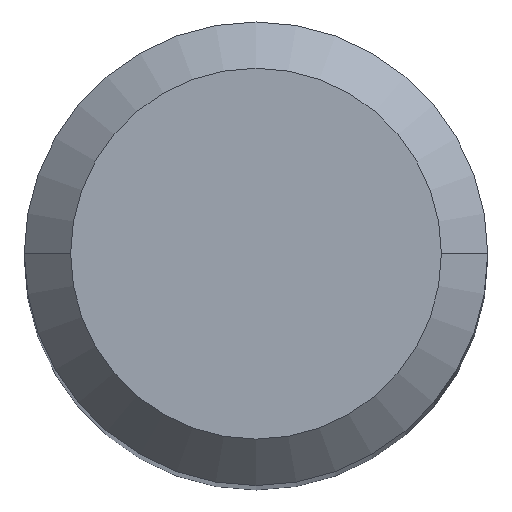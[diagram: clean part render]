
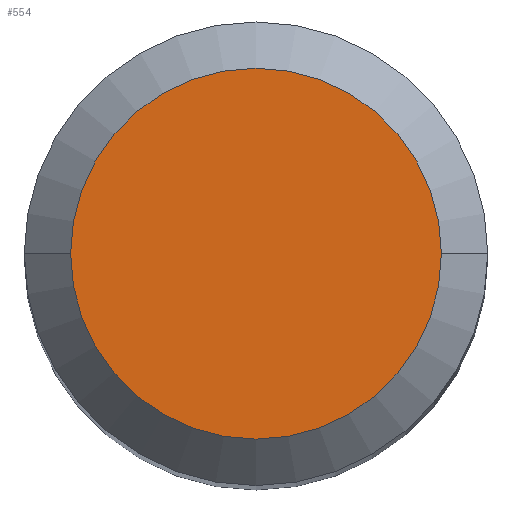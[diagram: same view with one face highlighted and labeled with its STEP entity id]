
A CAD part, top view. The second image highlights one B-rep face of the part: STEP entity #554.
In plain terms, the highlighted planar face has unit normal (0, 0, 1).
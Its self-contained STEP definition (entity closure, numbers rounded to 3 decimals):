
#9 = DIRECTION ( 'NONE',  ( 1., 0., 0. ) ) ;
#29 = DIRECTION ( 'NONE',  ( -1., 0., 0. ) ) ;
#83 = AXIS2_PLACEMENT_3D ( 'NONE', #571, #476, #29 ) ;
#87 = CIRCLE ( 'NONE', #83, 2.4 ) ;
#127 = AXIS2_PLACEMENT_3D ( 'NONE', #292, #509, #9 ) ;
#169 = EDGE_CURVE ( 'NONE', #524, #194, #293, .T. ) ;
#187 = ORIENTED_EDGE ( 'NONE', *, *, #169, .F. ) ;
#194 = VERTEX_POINT ( 'NONE', #507 ) ;
#215 = DIRECTION ( 'NONE',  ( 0., 0., -1. ) ) ;
#248 = FACE_OUTER_BOUND ( 'NONE', #400, .T. ) ;
#283 = DIRECTION ( 'NONE',  ( -1., 0., 0. ) ) ;
#292 = CARTESIAN_POINT ( 'NONE',  ( 0., 2.4, 0. ) ) ;
#293 = CIRCLE ( 'NONE', #429, 2.4 ) ;
#400 = EDGE_LOOP ( 'NONE', ( #187, #416 ) ) ;
#416 = ORIENTED_EDGE ( 'NONE', *, *, #597, .F. ) ;
#429 = AXIS2_PLACEMENT_3D ( 'NONE', #600, #215, #283 ) ;
#466 = CARTESIAN_POINT ( 'NONE',  ( -2.4, 0., 0. ) ) ;
#476 = DIRECTION ( 'NONE',  ( 0., 0., -1. ) ) ;
#507 = CARTESIAN_POINT ( 'NONE',  ( 2.4, 0., 0. ) ) ;
#509 = DIRECTION ( 'NONE',  ( 0., 0., 1. ) ) ;
#524 = VERTEX_POINT ( 'NONE', #466 ) ;
#554 = ADVANCED_FACE ( 'NONE', ( #248 ), #568, .T. ) ;
#568 = PLANE ( 'NONE',  #127 ) ;
#571 = CARTESIAN_POINT ( 'NONE',  ( 0., 0., 0. ) ) ;
#597 = EDGE_CURVE ( 'NONE', #194, #524, #87, .T. ) ;
#600 = CARTESIAN_POINT ( 'NONE',  ( 0., 0., 0. ) ) ;
